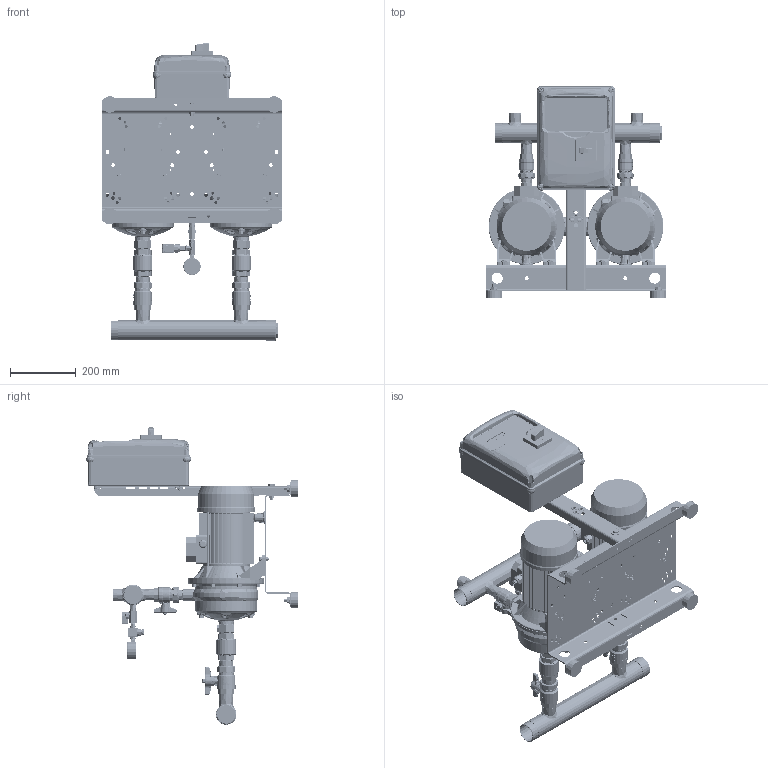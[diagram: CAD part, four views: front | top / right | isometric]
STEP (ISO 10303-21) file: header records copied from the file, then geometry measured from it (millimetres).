
FILE_DESCRIPTION((''),'2;1');
FILE_NAME('2GP_2CDX_120-30_REV5_ASM','2025-02-04T18:36:13',('Utente'),('"Ebara Pumps Europe S.p.A"'),'CREO PARAMETRIC BY PTC INC, 2022124','CREO PARAMETRIC BY PTC INC, 2022124','');
FILE_SCHEMA(('AUTOMOTIVE_DESIGN { 1 0 10303 214 1 1 1 1 }'));
Products named in the file (39): 62508_275562936; CALOTTA_F_A304_DN50_369800820; VAL_INT_MF-B_OTN_CIM346_DN32; VAL_INT_M-F-3_OTN_CIM346_DN32_ASM; VAL-NR-FF-OTN-CIM30-DN32; VAL_NR_F-F_OTN_CIM30_DN32_ASM; NIPPLO-ALIM_OT_DN32_361910051; TAPPO_M_OT_1-2_380000878; 3IEP_2CDX_120-30_IE3; EP_2CDX_120-30_ASM; VAL_INT_MF-B_OTN_CIM346_DN25; VAL_INT_M-F-3_OTN_CIM346_DN25_ASM; RONDEL-P_FE_ZN_UNI6592_M8; DADO_AUTOAGG_M8_ESAG; VITI_TE_ISO4017_M8_L25; 62510_275562942; TAPPO-SALVAFIL_D31; VAL_INT_MF_OTN_CIM012_DN8; NIPPLO_OTG_8_380000861; RACC-T_OTG_DN8_380000880; MAN_RAD_D50_10BAR_361600160; BASE_2GP_I300-B300_DNRV; MONTANTE_H600_271472877; PIEDINO_CIL_369650010; RONDEL-P_FE_ZN_UNI6592_M10; DADI_NORM_ISO4032_FE_ZN_M10; RONDEL-P_ZN_UNI6593_M10X30X2-5; VITI_TE_ISO4017_M10_L45; TRAVERSO_MONT_L200_271472882; RONDEL-P_FE_ZN_UNI6593_M6X18X2; RONDEL-P_FE_ZN_UNI6592_M6; VITI_TE_ISO4017_M6_L20; DADI_NORM_ISO4032_FE_ZN_M6; DADO_AUTOAGG_M10_ESAG; DNRV_2P_I300-B300_H600-Q220X300_ASM; COM_EP-PRO_2T_7-5_KW_362334215; PG_PVC_D10-5_380000891; TRASD_16BAR_460500024; 2GP_2CDX_120-30_REV5_ASM
Assembly tree (83 placements, depth 3):
  2GP_2CDX_120-30_REV5_ASM
    62508_275562936
    CALOTTA_F_A304_DN50_369800820  x2
    VAL_INT_M-F-3_OTN_CIM346_DN32_ASM  x2
      VAL_INT_MF-B_OTN_CIM346_DN32
    VAL_NR_F-F_OTN_CIM30_DN32_ASM  x2
      VAL-NR-FF-OTN-CIM30-DN32
    NIPPLO-ALIM_OT_DN32_361910051  x2
    TAPPO_M_OT_1-2_380000878  x2
    EP_2CDX_120-30_ASM  x2
      3IEP_2CDX_120-30_IE3
    VAL_INT_M-F-3_OTN_CIM346_DN25_ASM  x2
      VAL_INT_MF-B_OTN_CIM346_DN25
    RONDEL-P_FE_ZN_UNI6592_M8  x4
    DADO_AUTOAGG_M8_ESAG  x4
    VITI_TE_ISO4017_M8_L25  x4
    62510_275562942
    TAPPO-SALVAFIL_D31  x2
    VAL_INT_MF_OTN_CIM012_DN8
    NIPPLO_OTG_8_380000861
    RACC-T_OTG_DN8_380000880
    MAN_RAD_D50_10BAR_361600160
    DNRV_2P_I300-B300_H600-Q220X300_ASM
      BASE_2GP_I300-B300_DNRV
      MONTANTE_H600_271472877
      PIEDINO_CIL_369650010  x4
      RONDEL-P_FE_ZN_UNI6592_M10  x4
      DADI_NORM_ISO4032_FE_ZN_M10  x4
      RONDEL-P_ZN_UNI6593_M10X30X2-5
      VITI_TE_ISO4017_M10_L45
      TRAVERSO_MONT_L200_271472882  x2
      RONDEL-P_FE_ZN_UNI6593_M6X18X2  x8
      RONDEL-P_FE_ZN_UNI6592_M6  x4
      VITI_TE_ISO4017_M6_L20  x4
      DADI_NORM_ISO4032_FE_ZN_M6  x4
      DADO_AUTOAGG_M10_ESAG
    COM_EP-PRO_2T_7-5_KW_362334215
    PG_PVC_D10-5_380000891  x3
    TRASD_16BAR_460500024
Bounding box: 550 x 644.45 x 905.45 mm (x, y, z)
Volume: 15279578.4 mm3; surface area: 3568849.5 mm2
Topology: 1351 solids, 1484 shells, 21146 faces, 53637 edges, 35662 vertices
Faces by surface type: plane 14042, cylinder 3199, cone 1320, extrusion 943, bspline 881, torus 648, sphere 111, revolution 2
Entity records: 941839 total; most frequent: CARTESIAN_POINT 294950, ORIENTED_EDGE 79629, DIRECTION 74501, PRESENTATION_STYLE_ASSIGNMENT 51393, STYLED_ITEM 41924, EDGE_CURVE 40778, CURVE_STYLE 38216, VECTOR 30068
